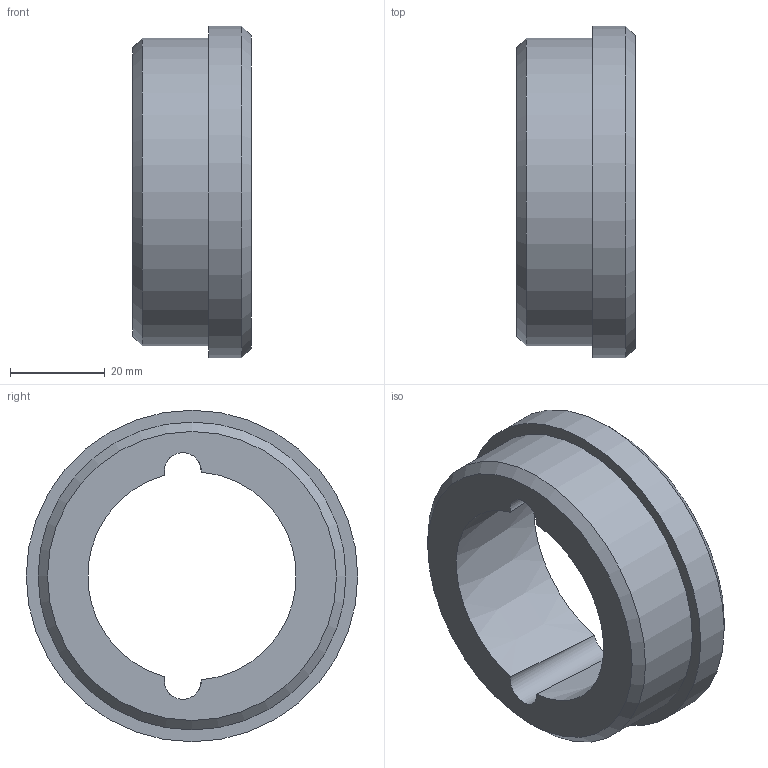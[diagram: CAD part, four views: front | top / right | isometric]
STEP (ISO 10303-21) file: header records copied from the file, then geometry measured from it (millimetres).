
FILE_DESCRIPTION(/* description */ (''),/* implementation_level */ '2;1');
FILE_NAME(/* name */ 'C:\Users\stagistaCAD\Desktop\28000120.stp',/* time_stamp */ '2018-06-14T16:34:38+02:00',/* author */ ('stagistacad'),/* organization */ (''),/* preprocessor_version */ 'ST-DEVELOPER v15.6',/* originating_system */ 'Autodesk Inventor 2015',/* authorisation */ '');
FILE_SCHEMA (('AUTOMOTIVE_DESIGN { 1 0 10303 214 3 1 1 }'));
Length unit declared in the file: millimetre
Products named in the file (1): 28000120
Bounding box: 25 x 70 x 70 mm (x, y, z)
Volume: 44216.1 mm3; surface area: 12929.8 mm2
Topology: 1 solids, 1 shells, 13 faces, 28 edges, 18 vertices
Faces by surface type: cone 5, cylinder 5, plane 3
Full cylindrical faces by diameter (mm): 65 x1, 70 x1
Entity records: 408 total; most frequent: CARTESIAN_POINT 107, DIRECTION 62, ORIENTED_EDGE 48, AXIS2_PLACEMENT_3D 31, EDGE_CURVE 24, EDGE_LOOP 20, VERTEX_POINT 18, CIRCLE 17
